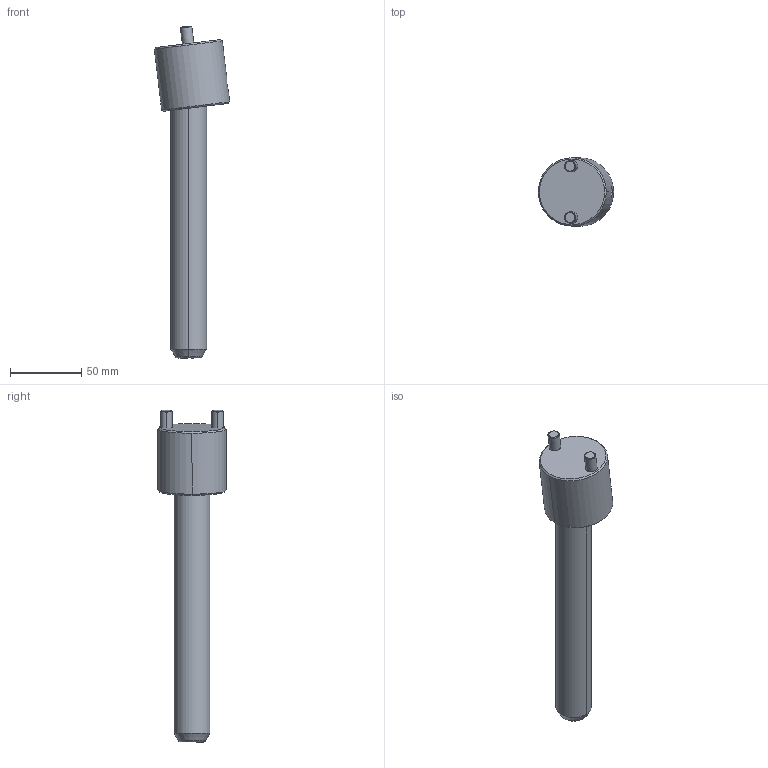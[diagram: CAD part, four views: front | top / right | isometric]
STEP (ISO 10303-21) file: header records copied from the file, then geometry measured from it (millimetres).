
FILE_DESCRIPTION (( 'STEP AP203' ), '1' );
FILE_NAME ('CI0725175.STEP', '2023-12-07T22:52:31', ( '' ), ( '' ), 'SwSTEP 2.0', 'SolidWorks 2017', '' );
FILE_SCHEMA (( 'CONFIG_CONTROL_DESIGN' ));
Length unit declared in the file: millimetre
Products named in the file (3): CS0725; CI0725175; CP25175
Assembly tree (2 placements, depth 2):
  CI0725175
    CP25175
    CS0725
Bounding box: 52.88 x 48 x 232.61 mm (x, y, z)
Volume: 166410 mm3; surface area: 31604.1 mm2
Topology: 2 solids, 2 shells, 37 faces, 80 edges, 47 vertices
Faces by surface type: cylinder 14, cone 14, plane 7, bspline 2
Entity records: 1505 total; most frequent: CARTESIAN_POINT 413, DIRECTION 182, ORIENTED_EDGE 156, EDGE_CURVE 78, AXIS2_PLACEMENT_3D 76, VERTEX_POINT 47, EDGE_LOOP 41, ADVANCED_FACE 37
